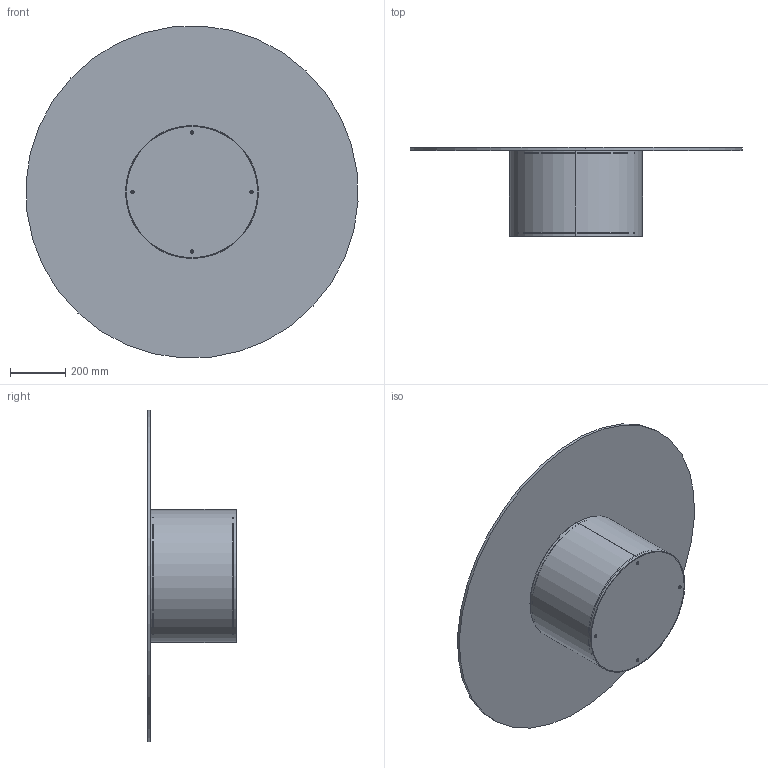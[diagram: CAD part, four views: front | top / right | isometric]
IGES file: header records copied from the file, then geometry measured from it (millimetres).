
Start section: SolidWorks IGES file using analytic representation for surfaces
Global section: file name: Y:\eforma\TECNICO\SOLIDWORKS\E-FORMA\2-TAVOLINI\CILINDRO LOW\02 parts\CL14G.IGS; native system: SolidWorks 2022; preprocessor: SolidWorks 2022; author: eforma.tech; date: 240806.121734; units: millimetre
Bounding box: 1198.01 x 320 x 1198.01 mm (x, y, z)
Volume: 14822494.4 mm3; surface area: 3989705 mm2
Topology: 12 solids, 12 shells, 231 faces, 499 edges, 288 vertices
Faces by surface type: revolution 119, plane 110, bspline 2
